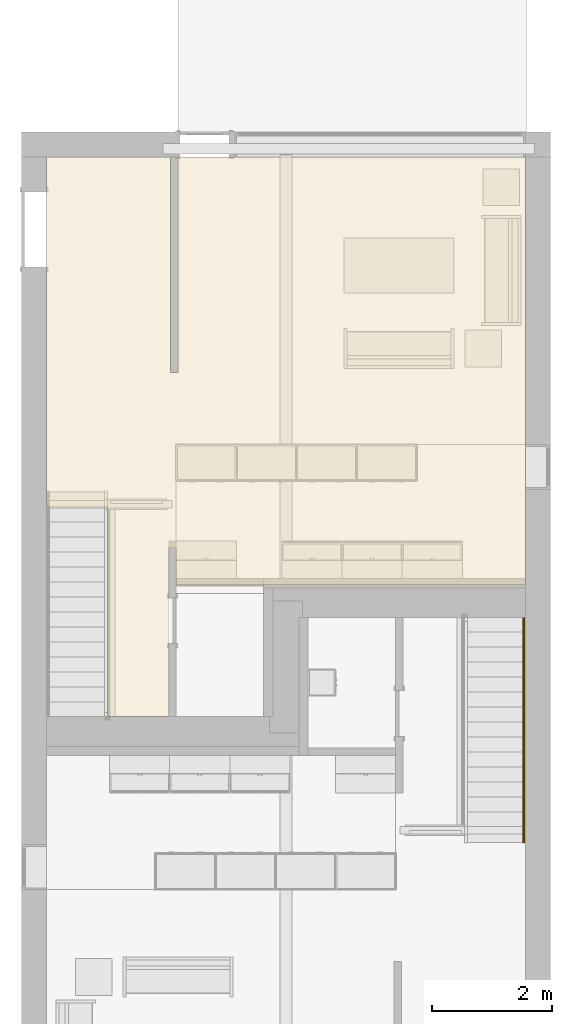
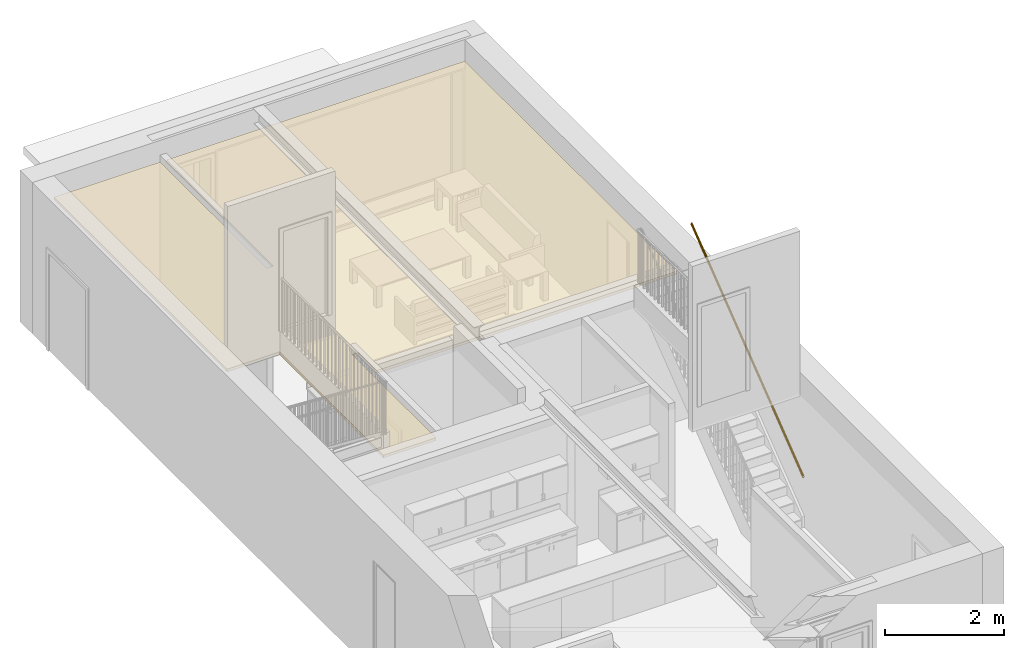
# One storey, part 8 of 18: 1 covering, 1 railing, 1 element without a shape of its own.
"""IFC4 building model written with IfcOpenShell, lengths in metres."""

from ifc_helpers import new_model, entity, si_unit, converted_unit, frame, origin, place, context, project, spatial, face_set, surface_model, material, layer, layer_set, layer_usage, element, aggregate, save


model = new_model("IFC4")

# Units and contexts
model_context = context("Model", 3, precision=1e-09, world=origin())
plan_context = context("Plan", 3, precision=1e-09, world=origin())
ifc_project = project(units=[si_unit("LENGTHUNIT", "METRE"), si_unit("AREAUNIT", "SQUARE_METRE"), si_unit("VOLUMEUNIT", "CUBIC_METRE"), converted_unit("PLANEANGLEUNIT", "DEGREE", entity("IfcRatioMeasure", 0.01745329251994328), si_unit("PLANEANGLEUNIT", "RADIAN"), dimensions=[0, 0, 0, 0, 0, 0, 0]), si_unit("TIMEUNIT", "SECOND")], contexts=[model_context, plan_context])

# Site, building, storey
site_placement = place(None, origin())
site = spatial("IfcSite", under=ifc_project, at=site_placement, Name="Default", CompositionType="ELEMENT")
building_placement = place(site_placement, origin())
building = spatial("IfcBuilding", under=site, at=building_placement, CompositionType="ELEMENT")
storey_placement = place(building_placement, origin())
storey = spatial("IfcBuildingStorey", under=building, at=storey_placement, Name="Level 1", CompositionType="ELEMENT", Elevation=0.0)

# Covering
ifc_material_1 = material(Name="Metal - Stud Layer")
ifc_layer_1 = layer(ifc_material_1, 0.045)
ifc_material_2 = material(Name="Plasterboard")
ifc_layer_2 = layer(ifc_material_2, 0.012)
ifc_layer_set = layer_set([ifc_layer_1, ifc_layer_2], Name="Compound Ceiling:Gypsum Board")
ifc_layer_usage = layer_usage(ifc_layer_set, "AXIS3", "NEGATIVE", 0.0)
covering_placement = place(storey_placement, origin())
element("IfcCovering", 1, at=covering_placement, inside=storey, material=ifc_layer_usage, Name="Compound Ceiling:Gypsum Board", ObjectType="Compound Ceiling:Gypsum Board", PredefinedType="CEILING", context=model_context, shape_type="SurfaceModel", body=[
    surface_model("IfcFaceBasedSurfaceModel", [(2.476, -0.4170000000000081, 2.657), (2.475999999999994, -4.0, 2.657), (2.599999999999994, -4.0, 2.657), (2.6, -0.4170000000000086, 2.657), (8.383, -0.4170000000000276, 2.657), (8.382999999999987, -7.525000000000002, 2.657), (2.574000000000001, -7.524999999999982, 2.657), (2.574000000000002, -6.920000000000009, 2.657), (2.450000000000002, -6.920000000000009, 2.657), (2.449999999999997, -9.725000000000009, 2.657), (1.4314, -9.725000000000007, 2.657), (1.431400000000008, -6.234000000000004, 2.657), (0.4169999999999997, -6.234000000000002, 2.657), (0.417, -0.4170000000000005, 2.657), (2.476, -0.4170000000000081, 2.6), (0.4170000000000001, -0.4170000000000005, 2.6), (0.4169999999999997, -6.234000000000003, 2.6), (1.431400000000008, -6.234000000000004, 2.6), (1.4314, -9.725000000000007, 2.6), (2.449999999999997, -9.725000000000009, 2.6), (2.450000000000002, -6.920000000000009, 2.6), (2.574000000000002, -6.920000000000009, 2.6), (2.574000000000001, -7.524999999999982, 2.6), (8.382999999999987, -7.525000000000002, 2.6), (8.383, -0.4170000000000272, 2.6), (2.6, -0.4170000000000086, 2.6), (2.599999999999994, -4.0, 2.6), (2.475999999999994, -4.0, 2.6)], [face_set([[[0, 1, 2, 3, 4, 5, 6, 7, 8, 9, 10, 11, 12, 13]], [[14, 15, 16, 17, 18, 19, 20, 21, 22, 23, 24, 25, 26, 27]], [[13, 0, 14, 15]], [[12, 13, 15, 16]], [[11, 17, 16, 12]], [[10, 11, 17, 18]], [[9, 19, 18, 10]], [[8, 20, 19, 9]], [[7, 21, 20, 8]], [[6, 7, 21, 22]], [[5, 23, 22, 6]], [[4, 24, 23, 5]], [[3, 4, 24, 25]], [[2, 3, 25, 26]], [[1, 2, 26, 27]], [[0, 14, 27, 1]]])]),
])

# Stair, railing
stair_placement = place(storey_placement, origin())
stair = element("IfcStair", 2, at=stair_placement, inside=storey, Name="Stair:Residential - 200mm Max Riser 250mm Tread", ObjectType="Stair:Residential - 200mm Max Riser 250mm Tread")
railing_placement = place(storey_placement, frame((8.336404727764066, -11.825, 1.041548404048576)))
railing = element("IfcRailing", 3, at=railing_placement, Name="Railing:900mm Handrail Only", ObjectType="Railing:900mm Handrail Only", PredefinedType="NOTDEFINED", context=model_context, shape_type="SurfaceModel", body=[
    surface_model("IfcFaceBasedSurfaceModel", [(0.04159527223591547, 0.0, 0.02689843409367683), (0.04091378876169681, 0.0, 0.0203494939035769), (0.03573740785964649, 0.0, 0.009006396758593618), (0.02677165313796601, 0.0, 0.002457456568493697), (0.01641889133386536, 0.0, 0.002457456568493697), (0.007453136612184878, 0.0, 0.009006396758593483), (0.002276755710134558, 0.0, 0.02034949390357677), (0.0015952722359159, 0.0, 0.02689843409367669), (0.002276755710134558, 0.0, 0.03344737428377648), (0.007453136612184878, 0.0, 0.04479047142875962), (0.01641889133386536, 0.0, 0.05133941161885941), (0.02677165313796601, 0.0, 0.05133941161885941), (0.03573740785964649, 0.0, 0.04479047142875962), (0.04091378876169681, 0.0, 0.03344737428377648), (0.04159527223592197, 3.75, 2.933148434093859), (0.04091378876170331, 3.75, 2.926599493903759), (0.03573740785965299, 3.75, 2.915256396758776), (0.0267716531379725, 3.75, 2.908707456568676), (0.01641889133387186, 3.75, 2.908707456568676), (0.007453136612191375, 3.75, 2.915256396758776), (0.002276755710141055, 3.75, 2.926599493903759), (0.001595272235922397, 3.75, 2.933148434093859), (0.002276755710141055, 3.75, 2.939697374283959), (0.007453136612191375, 3.75, 2.951040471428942), (0.01641889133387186, 3.75, 2.957589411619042), (0.0267716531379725, 3.75, 2.957589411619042), (0.03573740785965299, 3.75, 2.951040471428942), (0.04091378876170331, 3.75, 2.939697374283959), (0.004274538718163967, 3.749999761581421, 2.920496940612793), (0.01159502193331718, 3.749999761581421, 2.911235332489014), (0.01159502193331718, -3.082275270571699e-07, 0.004985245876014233), (0.004274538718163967, -3.082275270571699e-07, 0.01424681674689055), (0.02159499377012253, 3.749999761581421, 2.907845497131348), (0.02159499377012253, -3.082275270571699e-07, 0.001595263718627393), (0.03159554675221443, 3.749999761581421, 2.911235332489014), (0.03159554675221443, -3.082275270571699e-07, 0.004985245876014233), (0.03891602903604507, 3.749999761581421, 2.920496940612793), (0.03891602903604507, -3.082275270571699e-07, 0.01424681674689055), (0.03891602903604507, 3.749999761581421, 2.945800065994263), (0.03891602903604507, -3.082275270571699e-07, 0.03954999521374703), (0.03159554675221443, -3.082275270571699e-07, 0.04881164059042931), (0.03159554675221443, 3.749999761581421, 2.955061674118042), (0.02159499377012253, -3.082275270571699e-07, 0.05220162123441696), (0.02159499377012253, 3.749999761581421, 2.958451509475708), (0.01159502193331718, 3.749999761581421, 2.955061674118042), (0.01159502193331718, -3.082275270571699e-07, 0.04881164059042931), (0.004274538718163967, 3.749999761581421, 2.945800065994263), (0.004274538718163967, -3.082275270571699e-07, 0.03954999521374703)], [face_set([[[0, 1, 2, 3, 4, 5, 6, 7, 8, 9, 10, 11, 12, 13]], [[14, 15, 16, 17, 18, 19, 20, 21, 22, 23, 24, 25, 26, 27]], [[20, 28, 6]], [[21, 20, 7]], [[29, 18, 30]], [[19, 29, 5]], [[28, 19, 31]], [[28, 31, 6]], [[6, 7, 20]], [[5, 29, 30]], [[4, 30, 18]], [[31, 19, 5]], [[32, 33, 4, 18]], [[34, 16, 2]], [[17, 34, 35]], [[15, 14, 0]], [[36, 15, 1]], [[16, 36, 37]], [[32, 17, 3, 33]], [[17, 35, 3]], [[16, 37, 2]], [[34, 2, 35]], [[36, 1, 37]], [[15, 0, 1]], [[27, 13, 14]], [[38, 39, 27]], [[40, 26, 41]], [[38, 26, 12]], [[41, 25, 11, 40]], [[13, 0, 14]], [[39, 13, 27]], [[42, 11, 25]], [[40, 12, 26]], [[39, 38, 12]], [[25, 43, 42]], [[42, 24, 10]], [[10, 24, 44, 45]], [[9, 23, 46]], [[44, 23, 45]], [[47, 46, 22]], [[45, 23, 9]], [[22, 8, 47]], [[47, 9, 46]], [[7, 8, 21]], [[22, 21, 8]], [[24, 42, 43]]])]),
])
aggregate(stair, [railing])

save(model, "model.ifc")
